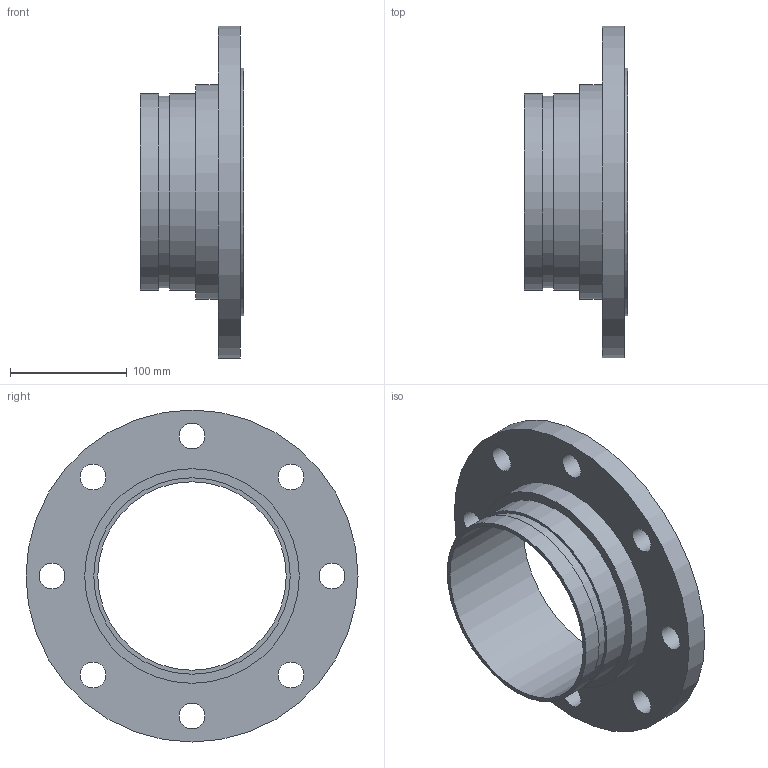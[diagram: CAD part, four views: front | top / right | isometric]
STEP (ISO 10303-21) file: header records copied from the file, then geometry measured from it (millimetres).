
FILE_DESCRIPTION(/* description */ ('VIC FLANGE ADAPTER STYLE 441N','CAx-IF Rec.Pracs.---Representation and Presentation of Product Manufacturing Information (PMI)---4.0---2014-10-13'),/* implementation_level */ '2;1');
FILE_NAME(/* name */ 'C:\Users\kkamble\AppData\Roaming\Autodesk\ApplicationPlugins\Back Up\Victaulic_SS-OGS_Flanged Adapter Nipple_PN10_Style 441N (OGSxFLG)\Victaulic_SS-OGS_Flanged Adapter Nipple_PN10_Style 441N (OGSxFLG)_6 (150).stp',/* time_stamp */ '2020-08-27T09:31:54+05:00',/* author */ ('jbrannon'),/* organization */ ('Victaulic'),/* preprocessor_version */ 'ST-DEVELOPER v17.2',/* originating_system */ 'Autodesk Inventor 2019',/* authorisation */ '');
FILE_SCHEMA (('AP242_MANAGED_MODEL_BASED_3D_ENGINEERING_MIM_LF { 1 0 10303 442 1 1 4 }'));
Length unit declared in the file: inch
Products named in the file (1): 441N-06.0
Bounding box: 88.9 x 284.48 x 284.48 mm (x, y, z)
Volume: 996925.4 mm3; surface area: 193139.1 mm2
Topology: 1 solids, 1 shells, 22 faces, 59 edges, 44 vertices
Faces by surface type: cylinder 15, plane 7
Full cylindrical faces by diameter (mm): 22.098 x8, 161.468 x1, 163.957 x1, 168.275 x2, 183.896 x1, 212.09 x1, 284.48 x1
Entity records: 929 total; most frequent: DIRECTION 175, CARTESIAN_POINT 143, ORIENTED_EDGE 118, AXIS2_PLACEMENT_3D 80, EDGE_CURVE 59, EDGE_LOOP 45, CIRCLE 44, VERTEX_POINT 44
